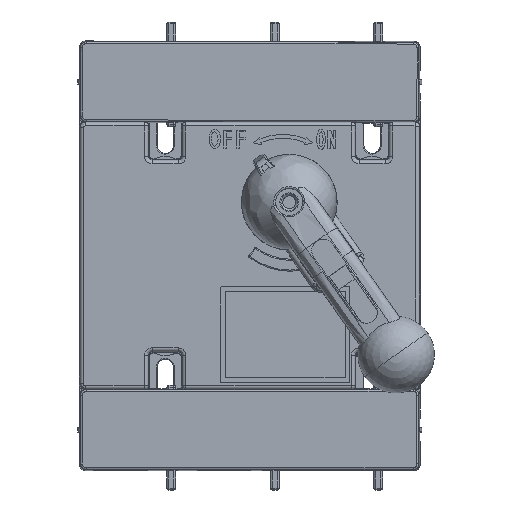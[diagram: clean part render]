
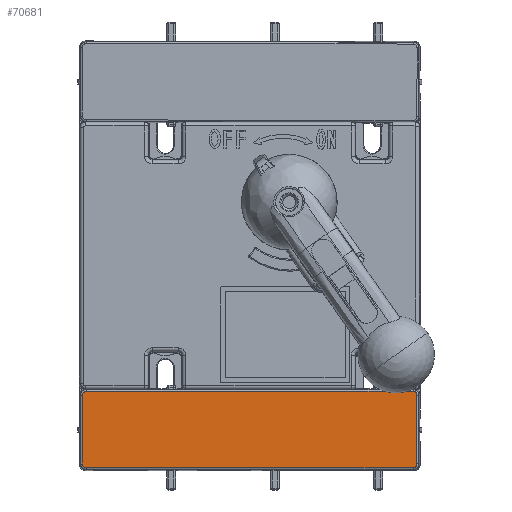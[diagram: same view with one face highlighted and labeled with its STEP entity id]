
A CAD part, top view. The second image highlights one B-rep face of the part: STEP entity #70681.
In plain terms, the highlighted planar face has unit normal (0, 0, 1) as drawn and (0, 1, 0) by its records, which use the part's own axes.
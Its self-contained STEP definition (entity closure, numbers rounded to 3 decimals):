
#67798=DIRECTION('',(-1.,0.,0.));
#67799=VECTOR('',#67798,85.323);
#67800=CARTESIAN_POINT('',(35.862,11.3,
-9.961));
#67801=LINE('',#67800,#67799);
#67894=DIRECTION('',(1.,0.,0.));
#67895=VECTOR('',#67894,85.323);
#67896=CARTESIAN_POINT('',(-49.462,11.3,
9.961));
#67897=LINE('',#67896,#67895);
#68400=DIRECTION('',(0.,0.,1.));
#68401=VECTOR('',#68400,17.923);
#68402=CARTESIAN_POINT('',(-50.461,11.3,
-8.962));
#68403=LINE('',#68402,#68401);
#68594=CARTESIAN_POINT('',(-49.462,11.3,
-8.962));
#68595=DIRECTION('',(0.,-1.,0.));
#68596=DIRECTION('',(-1.,0.,0.));
#68597=AXIS2_PLACEMENT_3D('',#68594,#68595,#68596);
#68599=CARTESIAN_POINT('',(35.862,11.3,
-8.962));
#68600=DIRECTION('',(0.,-1.,0.));
#68601=DIRECTION('',(0.,0.,-1.));
#68602=AXIS2_PLACEMENT_3D('',#68599,#68600,#68601);
#68604=CARTESIAN_POINT('',(35.862,11.3,8.962));
#68605=DIRECTION('',(0.,-1.,0.));
#68606=DIRECTION('',(1.,0.,0.));
#68607=AXIS2_PLACEMENT_3D('',#68604,#68605,#68606);
#68609=CARTESIAN_POINT('',(-49.462,11.3,
8.962));
#68610=DIRECTION('',(0.,-1.,0.));
#68611=DIRECTION('',(0.,0.,1.));
#68612=AXIS2_PLACEMENT_3D('',#68609,#68610,#68611);
#68618=DIRECTION('',(0.,0.,-1.));
#68619=VECTOR('',#68618,17.923);
#68620=CARTESIAN_POINT('',(36.861,11.3,8.962));
#68621=LINE('',#68620,#68619);
#69269=CARTESIAN_POINT('',(35.862,11.3,
-9.961));
#69270=VERTEX_POINT('',#69269);
#69271=CARTESIAN_POINT('',(-49.462,11.3,
-9.961));
#69272=VERTEX_POINT('',#69271);
#69274=CARTESIAN_POINT('',(36.861,11.3,
-8.962));
#69275=VERTEX_POINT('',#69274);
#69299=CARTESIAN_POINT('',(35.862,11.3,9.961));
#69300=VERTEX_POINT('',#69299);
#69301=CARTESIAN_POINT('',(36.861,11.3,8.961));
#69302=VERTEX_POINT('',#69301);
#69305=CARTESIAN_POINT('',(-49.462,11.3,
9.961));
#69306=VERTEX_POINT('',#69305);
#69440=CARTESIAN_POINT('',(-50.461,11.3,
8.962));
#69441=VERTEX_POINT('',#69440);
#69444=CARTESIAN_POINT('',(-50.461,11.3,
-8.962));
#69445=VERTEX_POINT('',#69444);
#70665=CARTESIAN_POINT('',(37.55,11.3,-10.65));
#70666=DIRECTION('',(0.,1.,0.));
#70667=DIRECTION('',(-1.,0.,0.));
#70668=AXIS2_PLACEMENT_3D('',#70665,#70666,#70667);
#70669=PLANE('',#70668);
#70670=ORIENTED_EDGE('',*,*,#70659,.T.);
#70671=ORIENTED_EDGE('',*,*,#69698,.F.);
#70672=ORIENTED_EDGE('',*,*,#69714,.T.);
#70674=ORIENTED_EDGE('',*,*,#70673,.F.);
#70675=ORIENTED_EDGE('',*,*,#69791,.T.);
#70676=ORIENTED_EDGE('',*,*,#69807,.F.);
#70677=ORIENTED_EDGE('',*,*,#70392,.T.);
#70678=ORIENTED_EDGE('',*,*,#70407,.F.);
#70679=EDGE_LOOP('',(#70670,#70671,#70672,#70674,#70675,#70676,#70677,#70678));
#70680=FACE_OUTER_BOUND('',#70679,.F.);
#68598=CIRCLE('',#68597,1.);
#68603=CIRCLE('',#68602,1.);
#68608=CIRCLE('',#68607,1.);
#68613=CIRCLE('',#68612,1.);
#69698=EDGE_CURVE('',#69270,#69272,#67801,.T.);
#69714=EDGE_CURVE('',#69270,#69275,#68603,.T.);
#69791=EDGE_CURVE('',#69302,#69300,#68608,.T.);
#69807=EDGE_CURVE('',#69306,#69300,#67897,.T.);
#70392=EDGE_CURVE('',#69306,#69441,#68613,.T.);
#70407=EDGE_CURVE('',#69445,#69441,#68403,.T.);
#70659=EDGE_CURVE('',#69445,#69272,#68598,.T.);
#70673=EDGE_CURVE('',#69302,#69275,#68621,.T.);
#70681=ADVANCED_FACE('',(#70680),#70669,.T.);
